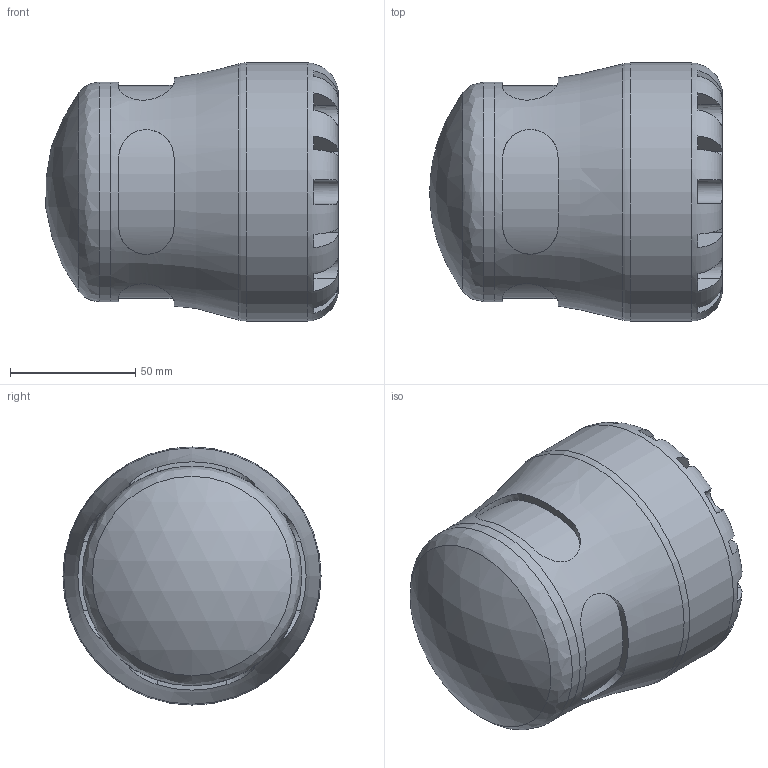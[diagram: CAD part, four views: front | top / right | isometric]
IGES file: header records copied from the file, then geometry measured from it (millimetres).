
Global section: file name: 101200063_191200063.ipt; native system: Autodesk Inventor 2015; preprocessor: unknown; author: KIM; date: 20170117.125129; units: millimetre
Bounding box: 116.71 x 103 x 103 mm (x, y, z)
Volume: 457837.1 mm3; surface area: 65833.7 mm2
Topology: 1 solids, 1 shells, 95 faces, 245 edges, 156 vertices
Faces by surface type: plane 57, revolution 23, cylinder 14, sphere 1
Full cylindrical faces by diameter (mm): 87.55 x1, 103 x1
